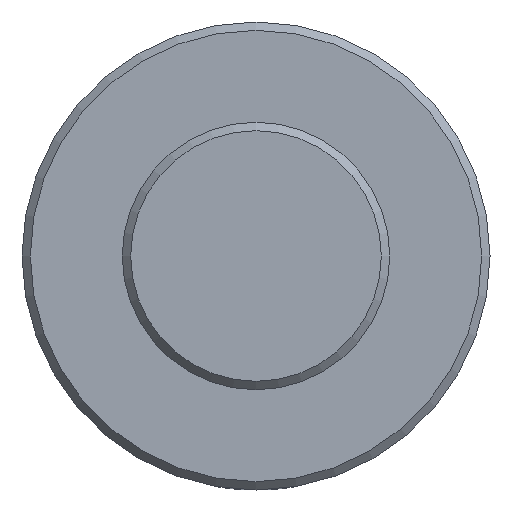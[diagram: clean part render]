
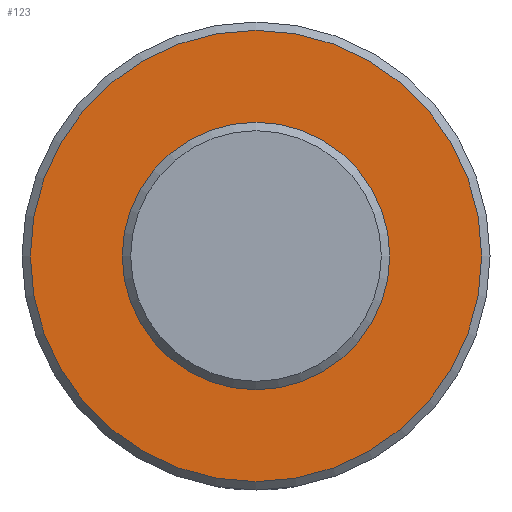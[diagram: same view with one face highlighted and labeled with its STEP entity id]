
A CAD part, left-side view. The second image highlights one B-rep face of the part: STEP entity #123.
In plain terms, the highlighted planar face has unit normal (-1, 0, 0).
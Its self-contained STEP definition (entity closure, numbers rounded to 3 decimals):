
#114=PLANE('',#351);
#123=ADVANCED_FACE('',(#181,#182),#114,.F.);
#181=FACE_BOUND('',#202,.T.);
#182=FACE_BOUND('',#203,.T.);
#202=EDGE_LOOP('',(#237));
#203=EDGE_LOOP('',(#238));
#237=ORIENTED_EDGE('',*,*,#315,.T.);
#238=ORIENTED_EDGE('',*,*,#313,.F.);
#291=VERTEX_POINT('',#592);
#293=VERTEX_POINT('',#597);
#313=EDGE_CURVE('',#291,#291,#333,.T.);
#315=EDGE_CURVE('',#293,#293,#335,.T.);
#333=CIRCLE('',#347,8.);
#335=CIRCLE('',#350,13.5);
#347=AXIS2_PLACEMENT_3D('',#591,#382,#383);
#350=AXIS2_PLACEMENT_3D('',#596,#388,#389);
#351=AXIS2_PLACEMENT_3D('',#598,#390,#391);
#382=DIRECTION('',(-1.,0.,0.));
#383=DIRECTION('',(0.,1.,0.));
#388=DIRECTION('',(-1.,0.,0.));
#389=DIRECTION('',(0.,0.,-1.));
#390=DIRECTION('',(1.,0.,0.));
#391=DIRECTION('',(0.,0.,-1.));
#591=CARTESIAN_POINT('',(-55.,0.,0.));
#592=CARTESIAN_POINT('',(-55.,8.,0.));
#596=CARTESIAN_POINT('',(-55.,0.,0.));
#597=CARTESIAN_POINT('',(-55.,0.,-13.5));
#598=CARTESIAN_POINT('',(-55.,0.,0.));
